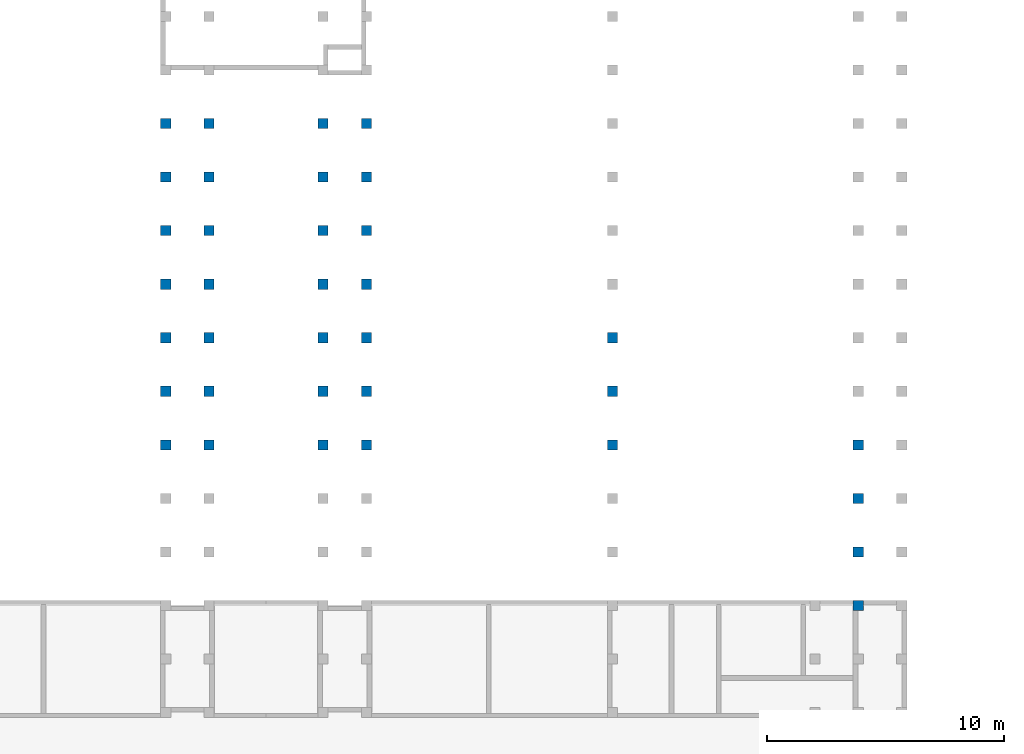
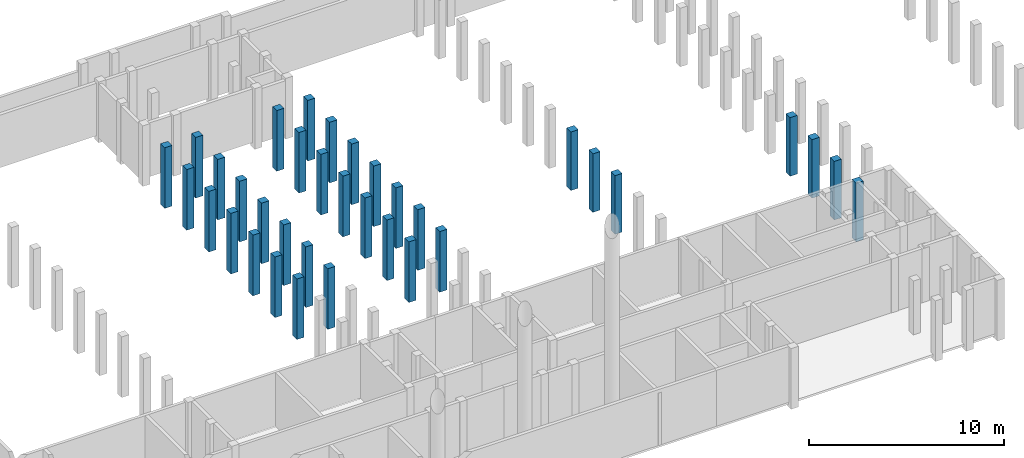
# One storey, part 4 of 9: 35 columns.
"""IFC2X3 building model written with IfcOpenShell, lengths in millimetres."""

from ifc_helpers import new_model, entity, si_unit, converted_unit, derived_unit, direction, frame, frame_2d, origin, origin_2d_with_axis, place, context, subcontext, project, spatial, rectangle, extrude, source, transform, mapped, material, type_object, type_shapes, element, save


model = new_model("IFC2X3")

# Units and contexts
model_context = context("Model", 3, precision=0.01, world=origin(), true_north=direction((6.12303176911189e-17, 1.0)))
body_context = subcontext(model_context, "Body", "Model", "MODEL_VIEW")
ifc_project = project(units=[si_unit("LENGTHUNIT", "METRE", prefix="MILLI"), si_unit("AREAUNIT", "SQUARE_METRE"), si_unit("VOLUMEUNIT", "CUBIC_METRE"), converted_unit("PLANEANGLEUNIT", "DEGREE", entity("IfcRatioMeasure", 0.0174532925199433), si_unit("PLANEANGLEUNIT", "RADIAN"), dimensions=[0, 0, 0, 0, 0, 0, 0]), si_unit("MASSUNIT", "GRAM", prefix="KILO"), derived_unit("MASSDENSITYUNIT", [(si_unit("MASSUNIT", "GRAM", prefix="KILO"), 1), (si_unit("LENGTHUNIT", "METRE"), -3)]), derived_unit("MOMENTOFINERTIAUNIT", [(si_unit("LENGTHUNIT", "METRE"), 4)]), si_unit("TIMEUNIT", "SECOND"), si_unit("FREQUENCYUNIT", "HERTZ"), si_unit("THERMODYNAMICTEMPERATUREUNIT", "DEGREE_CELSIUS"), derived_unit("THERMALTRANSMITTANCEUNIT", [(si_unit("MASSUNIT", "GRAM", prefix="KILO"), 1), (si_unit("THERMODYNAMICTEMPERATUREUNIT", "KELVIN"), -1), (si_unit("TIMEUNIT", "SECOND"), -3)]), derived_unit("VOLUMETRICFLOWRATEUNIT", [(si_unit("LENGTHUNIT", "METRE"), 3), (si_unit("TIMEUNIT", "SECOND"), -1)]), si_unit("ELECTRICCURRENTUNIT", "AMPERE"), si_unit("ELECTRICVOLTAGEUNIT", "VOLT"), si_unit("POWERUNIT", "WATT"), si_unit("FORCEUNIT", "NEWTON", prefix="KILO"), si_unit("ILLUMINANCEUNIT", "LUX"), si_unit("LUMINOUSFLUXUNIT", "LUMEN"), si_unit("LUMINOUSINTENSITYUNIT", "CANDELA"), derived_unit("USERDEFINED", [(si_unit("MASSUNIT", "GRAM", prefix="KILO"), -1), (si_unit("LENGTHUNIT", "METRE"), -2), (si_unit("TIMEUNIT", "SECOND"), 3), (si_unit("LUMINOUSFLUXUNIT", "LUMEN"), 1)]), derived_unit("LINEARVELOCITYUNIT", [(si_unit("LENGTHUNIT", "METRE"), 1), (si_unit("TIMEUNIT", "SECOND"), -1)]), si_unit("PRESSUREUNIT", "PASCAL"), derived_unit("USERDEFINED", [(si_unit("LENGTHUNIT", "METRE"), -2), (si_unit("MASSUNIT", "GRAM", prefix="KILO"), 1), (si_unit("TIMEUNIT", "SECOND"), -2)]), derived_unit("LINEARFORCEUNIT", [(si_unit("MASSUNIT", "GRAM", prefix="KILO"), 1), (si_unit("LENGTHUNIT", "METRE"), 1), (si_unit("TIMEUNIT", "SECOND"), -2), (si_unit("LENGTHUNIT", "METRE"), -1)]), derived_unit("PLANARFORCEUNIT", [(si_unit("MASSUNIT", "GRAM", prefix="KILO"), 1), (si_unit("LENGTHUNIT", "METRE"), 1), (si_unit("TIMEUNIT", "SECOND"), -2), (si_unit("LENGTHUNIT", "METRE"), -2)])], contexts=[model_context])

# Site, building, storey
site_placement = place(None, frame((10627.5135316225, 21939.0796949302, 0.0)))
site = spatial("IfcSite", under=ifc_project, at=site_placement, Name="Default", CompositionType="ELEMENT")
building_placement = place(site_placement, origin())
building = spatial("IfcBuilding", under=site, at=building_placement, CompositionType="ELEMENT")
storey_placement = place(building_placement, frame((0.0, 0.0, -3500.0)))
storey = spatial("IfcBuildingStorey", under=building, at=storey_placement, Name="R-1", CompositionType="ELEMENT", Elevation=-3500.0)

# Columns
ifc_material = material(Name="Concrete, Precast Smooth, Light Grey")
column_type_1 = type_object("IfcColumnType", Name="M_Precast-Square Column:430x430", PredefinedType="COLUMN", material=ifc_material)
shared_shape_1 = source(origin(), body_context, "Body", "SweptSolid", [
    extrude(rectangle(XDim=430.0, YDim=429.999999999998, at=origin_2d_with_axis()), frame((22342.4864683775, 9700.92030506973, -3800.0), z_axis=(0.0, 0.0, 1.0), x_axis=(0.0, -1.0, 0.0)), (0.0, 0.0, 1.0), 3800.0),
])
type_shapes(column_type_1, [shared_shape_1])
column_1_placement = place(storey_placement, frame((0.0, 0.0, 3500.0)))
element("IfcColumn", 1, at=column_1_placement, inside=storey, type_object=column_type_1, material=ifc_material, Name="M_Precast-Square Column:430x430", ObjectType="M_Precast-Square Column:430x430", context=body_context, shape_type="MappedRepresentation", body=[
    mapped(shared_shape_1, transform((0.0, 0.0, 0.0), scale=1.0)),
])
column_type_2 = type_object("IfcColumnType", Name="M_Precast-Square Column:430x430", PredefinedType="COLUMN", material=ifc_material)
shared_shape_2 = source(origin(), body_context, "Body", "SweptSolid", [
    extrude(rectangle(XDim=430.0, YDim=429.999999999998, at=frame_2d((-5.40012479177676e-13, 0.0), x_axis=(1.0, 0.0))), frame((24172.4864683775, 9700.92030506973, -3800.0), z_axis=(0.0, 0.0, 1.0), x_axis=(0.0, -1.0, 0.0)), (0.0, 0.0, 1.0), 3800.0),
])
type_shapes(column_type_2, [shared_shape_2])
column_2_placement = place(storey_placement, frame((0.0, 0.0, 3500.0)))
element("IfcColumn", 2, at=column_2_placement, inside=storey, type_object=column_type_2, material=ifc_material, Name="M_Precast-Square Column:430x430", ObjectType="M_Precast-Square Column:430x430", context=body_context, shape_type="MappedRepresentation", body=[
    mapped(shared_shape_2, transform((0.0, 0.0, 0.0), scale=1.0)),
])
column_type_3 = type_object("IfcColumnType", Name="M_Precast-Square Column:430x430", PredefinedType="COLUMN", material=ifc_material)
shared_shape_3 = source(origin(), body_context, "Body", "SweptSolid", [
    extrude(rectangle(XDim=430.0, YDim=429.999999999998, at=origin_2d_with_axis()), frame((22342.4864683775, 7440.92030506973, -3800.0), z_axis=(0.0, 0.0, 1.0), x_axis=(0.0, -1.0, 0.0)), (0.0, 0.0, 1.0), 3800.0),
])
type_shapes(column_type_3, [shared_shape_3])
column_3_placement = place(storey_placement, frame((0.0, 0.0, 3500.0)))
element("IfcColumn", 3, at=column_3_placement, inside=storey, type_object=column_type_3, material=ifc_material, Name="M_Precast-Square Column:430x430", ObjectType="M_Precast-Square Column:430x430", context=body_context, shape_type="MappedRepresentation", body=[
    mapped(shared_shape_3, transform((0.0, 0.0, 0.0), scale=1.0)),
])
column_type_4 = type_object("IfcColumnType", Name="M_Precast-Square Column:430x430", PredefinedType="COLUMN", material=ifc_material)
shared_shape_4 = source(origin(), body_context, "Body", "SweptSolid", [
    extrude(rectangle(XDim=430.0, YDim=429.999999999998, at=origin_2d_with_axis()), frame((24172.4864683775, 7440.92030506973, -3800.0), z_axis=(0.0, 0.0, 1.0), x_axis=(0.0, -1.0, 0.0)), (0.0, 0.0, 1.0), 3800.0),
])
type_shapes(column_type_4, [shared_shape_4])
column_4_placement = place(storey_placement, frame((0.0, 0.0, 3500.0)))
element("IfcColumn", 4, at=column_4_placement, inside=storey, type_object=column_type_4, material=ifc_material, Name="M_Precast-Square Column:430x430", ObjectType="M_Precast-Square Column:430x430", context=body_context, shape_type="MappedRepresentation", body=[
    mapped(shared_shape_4, transform((0.0, 0.0, 0.0), scale=1.0)),
])
column_type_5 = type_object("IfcColumnType", Name="M_Precast-Square Column:430x430", PredefinedType="COLUMN", material=ifc_material)
shared_shape_5 = source(origin(), body_context, "Body", "SweptSolid", [
    extrude(rectangle(XDim=430.0, YDim=429.999999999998, at=origin_2d_with_axis()), frame((22342.4864683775, 5180.92030506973, -3800.0), z_axis=(0.0, 0.0, 1.0), x_axis=(0.0, -1.0, 0.0)), (0.0, 0.0, 1.0), 3800.0),
])
type_shapes(column_type_5, [shared_shape_5])
column_5_placement = place(storey_placement, frame((0.0, 0.0, 3500.0)))
element("IfcColumn", 5, at=column_5_placement, inside=storey, type_object=column_type_5, material=ifc_material, Name="M_Precast-Square Column:430x430", ObjectType="M_Precast-Square Column:430x430", context=body_context, shape_type="MappedRepresentation", body=[
    mapped(shared_shape_5, transform((0.0, 0.0, 0.0), scale=1.0)),
])
column_type_6 = type_object("IfcColumnType", Name="M_Precast-Square Column:430x430", PredefinedType="COLUMN", material=ifc_material)
shared_shape_6 = source(origin(), body_context, "Body", "SweptSolid", [
    extrude(rectangle(XDim=430.0, YDim=429.999999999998, at=origin_2d_with_axis()), frame((24172.4864683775, 5180.92030506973, -3800.0), z_axis=(0.0, 0.0, 1.0), x_axis=(0.0, -1.0, 0.0)), (0.0, 0.0, 1.0), 3800.0),
])
type_shapes(column_type_6, [shared_shape_6])
column_6_placement = place(storey_placement, frame((0.0, 0.0, 3500.0)))
element("IfcColumn", 6, at=column_6_placement, inside=storey, type_object=column_type_6, material=ifc_material, Name="M_Precast-Square Column:430x430", ObjectType="M_Precast-Square Column:430x430", context=body_context, shape_type="MappedRepresentation", body=[
    mapped(shared_shape_6, transform((0.0, 0.0, 0.0), scale=1.0)),
])
column_type_7 = type_object("IfcColumnType", Name="M_Precast-Square Column:430x430", PredefinedType="COLUMN", material=ifc_material)
shared_shape_7 = source(origin(), body_context, "Body", "SweptSolid", [
    extrude(rectangle(XDim=430.0, YDim=429.999999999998, at=origin_2d_with_axis()), frame((22342.4864683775, 2920.92030506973, -3800.0), z_axis=(0.0, 0.0, 1.0), x_axis=(0.0, -1.0, 0.0)), (0.0, 0.0, 1.0), 3800.0),
])
type_shapes(column_type_7, [shared_shape_7])
column_7_placement = place(storey_placement, frame((0.0, 0.0, 3500.0)))
element("IfcColumn", 7, at=column_7_placement, inside=storey, type_object=column_type_7, material=ifc_material, Name="M_Precast-Square Column:430x430", ObjectType="M_Precast-Square Column:430x430", context=body_context, shape_type="MappedRepresentation", body=[
    mapped(shared_shape_7, transform((0.0, 0.0, 0.0), scale=1.0)),
])
column_type_8 = type_object("IfcColumnType", Name="M_Precast-Square Column:430x430", PredefinedType="COLUMN", material=ifc_material)
shared_shape_8 = source(origin(), body_context, "Body", "SweptSolid", [
    extrude(rectangle(XDim=430.0, YDim=429.999999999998, at=origin_2d_with_axis()), frame((24172.4864683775, 2920.92030506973, -3800.0), z_axis=(0.0, 0.0, 1.0), x_axis=(0.0, -1.0, 0.0)), (0.0, 0.0, 1.0), 3800.0),
])
type_shapes(column_type_8, [shared_shape_8])
column_8_placement = place(storey_placement, frame((0.0, 0.0, 3500.0)))
element("IfcColumn", 8, at=column_8_placement, inside=storey, type_object=column_type_8, material=ifc_material, Name="M_Precast-Square Column:430x430", ObjectType="M_Precast-Square Column:430x430", context=body_context, shape_type="MappedRepresentation", body=[
    mapped(shared_shape_8, transform((0.0, 0.0, 0.0), scale=1.0)),
])
column_type_9 = type_object("IfcColumnType", Name="M_Precast-Square Column:430x430", PredefinedType="COLUMN", material=ifc_material)
shared_shape_9 = source(origin(), body_context, "Body", "SweptSolid", [
    extrude(rectangle(XDim=430.0, YDim=429.999999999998, at=origin_2d_with_axis()), frame((22342.4864683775, 660.920305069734, -3800.0), z_axis=(0.0, 0.0, 1.0), x_axis=(0.0, -1.0, 0.0)), (0.0, 0.0, 1.0), 3800.0),
])
type_shapes(column_type_9, [shared_shape_9])
column_9_placement = place(storey_placement, frame((0.0, 0.0, 3500.0)))
element("IfcColumn", 9, at=column_9_placement, inside=storey, type_object=column_type_9, material=ifc_material, Name="M_Precast-Square Column:430x430", ObjectType="M_Precast-Square Column:430x430", context=body_context, shape_type="MappedRepresentation", body=[
    mapped(shared_shape_9, transform((0.0, 0.0, 0.0), scale=1.0)),
])
column_type_10 = type_object("IfcColumnType", Name="M_Precast-Square Column:430x430", PredefinedType="COLUMN", material=ifc_material)
shared_shape_10 = source(origin(), body_context, "Body", "SweptSolid", [
    extrude(rectangle(XDim=430.0, YDim=429.999999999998, at=frame_2d((-5.6843418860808e-14, 0.0), x_axis=(1.0, 0.0))), frame((24172.4864683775, 660.920305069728, -3800.0), z_axis=(0.0, 0.0, 1.0), x_axis=(0.0, -1.0, 0.0)), (0.0, 0.0, 1.0), 3800.0),
])
type_shapes(column_type_10, [shared_shape_10])
column_10_placement = place(storey_placement, frame((0.0, 0.0, 3500.0)))
element("IfcColumn", 10, at=column_10_placement, inside=storey, type_object=column_type_10, material=ifc_material, Name="M_Precast-Square Column:430x430", ObjectType="M_Precast-Square Column:430x430", context=body_context, shape_type="MappedRepresentation", body=[
    mapped(shared_shape_10, transform((0.0, 0.0, 0.0), scale=1.0)),
])
column_type_11 = type_object("IfcColumnType", Name="M_Precast-Square Column:430x430", PredefinedType="COLUMN", material=ifc_material)
shared_shape_11 = source(origin(), body_context, "Body", "SweptSolid", [
    extrude(rectangle(XDim=430.0, YDim=429.999999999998, at=origin_2d_with_axis()), frame((22342.4864683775, -1599.07969493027, -3800.0), z_axis=(0.0, 0.0, 1.0), x_axis=(0.0, -1.0, 0.0)), (0.0, 0.0, 1.0), 3800.0),
])
type_shapes(column_type_11, [shared_shape_11])
column_11_placement = place(storey_placement, frame((0.0, 0.0, 3500.0)))
element("IfcColumn", 11, at=column_11_placement, inside=storey, type_object=column_type_11, material=ifc_material, Name="M_Precast-Square Column:430x430", ObjectType="M_Precast-Square Column:430x430", context=body_context, shape_type="MappedRepresentation", body=[
    mapped(shared_shape_11, transform((0.0, 0.0, 0.0), scale=1.0)),
])
column_type_12 = type_object("IfcColumnType", Name="M_Precast-Square Column:430x430", PredefinedType="COLUMN", material=ifc_material)
shared_shape_12 = source(origin(), body_context, "Body", "SweptSolid", [
    extrude(rectangle(XDim=430.0, YDim=429.999999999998, at=frame_2d((1.4210854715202e-13, 0.0), x_axis=(1.0, 0.0))), frame((24172.4864683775, -1599.07969493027, -3800.0), z_axis=(0.0, 0.0, 1.0), x_axis=(0.0, -1.0, 0.0)), (0.0, 0.0, 1.0), 3800.0),
])
type_shapes(column_type_12, [shared_shape_12])
column_12_placement = place(storey_placement, frame((0.0, 0.0, 3500.0)))
element("IfcColumn", 12, at=column_12_placement, inside=storey, type_object=column_type_12, material=ifc_material, Name="M_Precast-Square Column:430x430", ObjectType="M_Precast-Square Column:430x430", context=body_context, shape_type="MappedRepresentation", body=[
    mapped(shared_shape_12, transform((0.0, 0.0, 0.0), scale=1.0)),
])
column_type_13 = type_object("IfcColumnType", Name="M_Precast-Square Column:430x430", PredefinedType="COLUMN", material=ifc_material)
shared_shape_13 = source(origin(), body_context, "Body", "SweptSolid", [
    extrude(rectangle(XDim=430.0, YDim=429.999999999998, at=origin_2d_with_axis()), frame((22342.4864683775, -3859.07969493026, -3800.0), z_axis=(0.0, 0.0, 1.0), x_axis=(0.0, -1.0, 0.0)), (0.0, 0.0, 1.0), 3800.0),
])
type_shapes(column_type_13, [shared_shape_13])
column_13_placement = place(storey_placement, frame((0.0, 0.0, 3500.0)))
element("IfcColumn", 13, at=column_13_placement, inside=storey, type_object=column_type_13, material=ifc_material, Name="M_Precast-Square Column:430x430", ObjectType="M_Precast-Square Column:430x430", context=body_context, shape_type="MappedRepresentation", body=[
    mapped(shared_shape_13, transform((0.0, 0.0, 0.0), scale=1.0)),
])
column_type_14 = type_object("IfcColumnType", Name="M_Precast-Square Column:430x430", PredefinedType="COLUMN", material=ifc_material)
shared_shape_14 = source(origin(), body_context, "Body", "SweptSolid", [
    extrude(rectangle(XDim=430.0, YDim=429.999999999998, at=origin_2d_with_axis()), frame((24172.4864683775, -3859.07969493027, -3800.0), z_axis=(0.0, 0.0, 1.0), x_axis=(0.0, -1.0, 0.0)), (0.0, 0.0, 1.0), 3800.0),
])
type_shapes(column_type_14, [shared_shape_14])
column_14_placement = place(storey_placement, frame((0.0, 0.0, 3500.0)))
element("IfcColumn", 14, at=column_14_placement, inside=storey, type_object=column_type_14, material=ifc_material, Name="M_Precast-Square Column:430x430", ObjectType="M_Precast-Square Column:430x430", context=body_context, shape_type="MappedRepresentation", body=[
    mapped(shared_shape_14, transform((0.0, 0.0, 0.0), scale=1.0)),
])
column_type_15 = type_object("IfcColumnType", Name="M_Precast-Square Column:430x430", PredefinedType="COLUMN", material=ifc_material)
shared_shape_15 = source(origin(), body_context, "Body", "SweptSolid", [
    extrude(rectangle(XDim=430.0, YDim=429.999999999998, at=origin_2d_with_axis()), frame((30812.4864683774, 9700.92030506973, -3800.0), z_axis=(0.0, 0.0, 1.0), x_axis=(0.0, -1.0, 0.0)), (0.0, 0.0, 1.0), 3800.0),
])
type_shapes(column_type_15, [shared_shape_15])
column_15_placement = place(storey_placement, frame((0.0, 0.0, 3500.0)))
element("IfcColumn", 15, at=column_15_placement, inside=storey, type_object=column_type_15, material=ifc_material, Name="M_Precast-Square Column:430x430", ObjectType="M_Precast-Square Column:430x430", context=body_context, shape_type="MappedRepresentation", body=[
    mapped(shared_shape_15, transform((0.0, 0.0, 0.0), scale=1.0)),
])
column_type_16 = type_object("IfcColumnType", Name="M_Precast-Square Column:430x430", PredefinedType="COLUMN", material=ifc_material)
shared_shape_16 = source(origin(), body_context, "Body", "SweptSolid", [
    extrude(rectangle(XDim=430.000000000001, YDim=429.999999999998, at=frame_2d((5.40012479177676e-13, 0.0), x_axis=(1.0, 0.0))), frame((28982.4864683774, 9700.92030506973, -3800.0), z_axis=(0.0, 0.0, 1.0), x_axis=(0.0, -1.0, 0.0)), (0.0, 0.0, 1.0), 3800.0),
])
type_shapes(column_type_16, [shared_shape_16])
column_16_placement = place(storey_placement, frame((0.0, 0.0, 3500.0)))
element("IfcColumn", 16, at=column_16_placement, inside=storey, type_object=column_type_16, material=ifc_material, Name="M_Precast-Square Column:430x430", ObjectType="M_Precast-Square Column:430x430", context=body_context, shape_type="MappedRepresentation", body=[
    mapped(shared_shape_16, transform((0.0, 0.0, 0.0), scale=1.0)),
])
column_type_17 = type_object("IfcColumnType", Name="M_Precast-Square Column:430x430", PredefinedType="COLUMN", material=ifc_material)
shared_shape_17 = source(origin(), body_context, "Body", "SweptSolid", [
    extrude(rectangle(XDim=430.0, YDim=429.999999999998, at=frame_2d((0.0, -4.33431068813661e-12), x_axis=(1.0, 0.0))), frame((30812.4864683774, 7440.92030506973, -3800.0), z_axis=(0.0, 0.0, 1.0), x_axis=(0.0, -1.0, 0.0)), (0.0, 0.0, 1.0), 3800.0),
])
type_shapes(column_type_17, [shared_shape_17])
column_17_placement = place(storey_placement, frame((0.0, 0.0, 3500.0)))
element("IfcColumn", 17, at=column_17_placement, inside=storey, type_object=column_type_17, material=ifc_material, Name="M_Precast-Square Column:430x430", ObjectType="M_Precast-Square Column:430x430", context=body_context, shape_type="MappedRepresentation", body=[
    mapped(shared_shape_17, transform((0.0, 0.0, 0.0), scale=1.0)),
])
column_type_18 = type_object("IfcColumnType", Name="M_Precast-Square Column:430x430", PredefinedType="COLUMN", material=ifc_material)
shared_shape_18 = source(origin(), body_context, "Body", "SweptSolid", [
    extrude(rectangle(XDim=430.0, YDim=429.999999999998, at=frame_2d((0.0, -4.33431068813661e-12), x_axis=(1.0, 0.0))), frame((28982.4864683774, 7440.92030506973, -3800.0), z_axis=(0.0, 0.0, 1.0), x_axis=(0.0, -1.0, 0.0)), (0.0, 0.0, 1.0), 3800.0),
])
type_shapes(column_type_18, [shared_shape_18])
column_18_placement = place(storey_placement, frame((0.0, 0.0, 3500.0)))
element("IfcColumn", 18, at=column_18_placement, inside=storey, type_object=column_type_18, material=ifc_material, Name="M_Precast-Square Column:430x430", ObjectType="M_Precast-Square Column:430x430", context=body_context, shape_type="MappedRepresentation", body=[
    mapped(shared_shape_18, transform((0.0, 0.0, 0.0), scale=1.0)),
])
column_type_19 = type_object("IfcColumnType", Name="M_Precast-Square Column:430x430", PredefinedType="COLUMN", material=ifc_material)
shared_shape_19 = source(origin(), body_context, "Body", "SweptSolid", [
    extrude(rectangle(XDim=430.0, YDim=429.999999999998, at=origin_2d_with_axis()), frame((30812.4864683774, 5180.92030506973, -3800.0), z_axis=(0.0, 0.0, 1.0), x_axis=(0.0, -1.0, 0.0)), (0.0, 0.0, 1.0), 3800.0),
])
type_shapes(column_type_19, [shared_shape_19])
column_19_placement = place(storey_placement, frame((0.0, 0.0, 3500.0)))
element("IfcColumn", 19, at=column_19_placement, inside=storey, type_object=column_type_19, material=ifc_material, Name="M_Precast-Square Column:430x430", ObjectType="M_Precast-Square Column:430x430", context=body_context, shape_type="MappedRepresentation", body=[
    mapped(shared_shape_19, transform((0.0, 0.0, 0.0), scale=1.0)),
])
column_type_20 = type_object("IfcColumnType", Name="M_Precast-Square Column:430x430", PredefinedType="COLUMN", material=ifc_material)
shared_shape_20 = source(origin(), body_context, "Body", "SweptSolid", [
    extrude(rectangle(XDim=430.0, YDim=429.999999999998, at=origin_2d_with_axis()), frame((28982.4864683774, 5180.92030506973, -3800.0), z_axis=(0.0, 0.0, 1.0), x_axis=(0.0, -1.0, 0.0)), (0.0, 0.0, 1.0), 3800.0),
])
type_shapes(column_type_20, [shared_shape_20])
column_20_placement = place(storey_placement, frame((0.0, 0.0, 3500.0)))
element("IfcColumn", 20, at=column_20_placement, inside=storey, type_object=column_type_20, material=ifc_material, Name="M_Precast-Square Column:430x430", ObjectType="M_Precast-Square Column:430x430", context=body_context, shape_type="MappedRepresentation", body=[
    mapped(shared_shape_20, transform((0.0, 0.0, 0.0), scale=1.0)),
])
column_type_21 = type_object("IfcColumnType", Name="M_Precast-Square Column:430x430", PredefinedType="COLUMN", material=ifc_material)
shared_shape_21 = source(origin(), body_context, "Body", "SweptSolid", [
    extrude(rectangle(XDim=430.0, YDim=429.999999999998, at=origin_2d_with_axis()), frame((30812.4864683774, 2920.92030506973, -3800.0), z_axis=(0.0, 0.0, 1.0), x_axis=(0.0, -1.0, 0.0)), (0.0, 0.0, 1.0), 3800.0),
])
type_shapes(column_type_21, [shared_shape_21])
column_21_placement = place(storey_placement, frame((0.0, 0.0, 3500.0)))
element("IfcColumn", 21, at=column_21_placement, inside=storey, type_object=column_type_21, material=ifc_material, Name="M_Precast-Square Column:430x430", ObjectType="M_Precast-Square Column:430x430", context=body_context, shape_type="MappedRepresentation", body=[
    mapped(shared_shape_21, transform((0.0, 0.0, 0.0), scale=1.0)),
])
column_type_22 = type_object("IfcColumnType", Name="M_Precast-Square Column:430x430", PredefinedType="COLUMN", material=ifc_material)
shared_shape_22 = source(origin(), body_context, "Body", "SweptSolid", [
    extrude(rectangle(XDim=430.0, YDim=429.999999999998, at=origin_2d_with_axis()), frame((28982.4864683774, 2920.92030506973, -3800.0), z_axis=(0.0, 0.0, 1.0), x_axis=(0.0, -1.0, 0.0)), (0.0, 0.0, 1.0), 3800.0),
])
type_shapes(column_type_22, [shared_shape_22])
column_22_placement = place(storey_placement, frame((0.0, 0.0, 3500.0)))
element("IfcColumn", 22, at=column_22_placement, inside=storey, type_object=column_type_22, material=ifc_material, Name="M_Precast-Square Column:430x430", ObjectType="M_Precast-Square Column:430x430", context=body_context, shape_type="MappedRepresentation", body=[
    mapped(shared_shape_22, transform((0.0, 0.0, 0.0), scale=1.0)),
])
column_type_23 = type_object("IfcColumnType", Name="M_Precast-Square Column:430x430", PredefinedType="COLUMN", material=ifc_material)
shared_shape_23 = source(origin(), body_context, "Body", "SweptSolid", [
    extrude(rectangle(XDim=430.0, YDim=430.000000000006, at=frame_2d((7.105427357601e-14, 0.0), x_axis=(1.0, 0.0))), frame((41192.4864683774, 660.920305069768, -3800.0), z_axis=(0.0, 0.0, 1.0), x_axis=(0.0, -1.0, 0.0)), (0.0, 0.0, 1.0), 3670.0),
])
type_shapes(column_type_23, [shared_shape_23])
column_23_placement = place(storey_placement, frame((0.0, 0.0, 3500.0)))
element("IfcColumn", 23, at=column_23_placement, inside=storey, type_object=column_type_23, material=ifc_material, Name="M_Precast-Square Column:430x430", ObjectType="M_Precast-Square Column:430x430", context=body_context, shape_type="MappedRepresentation", body=[
    mapped(shared_shape_23, transform((0.0, 0.0, 0.0), scale=1.0)),
])
column_type_24 = type_object("IfcColumnType", Name="M_Precast-Square Column:430x430", PredefinedType="COLUMN", material=ifc_material)
shared_shape_24 = source(origin(), body_context, "Body", "SweptSolid", [
    extrude(rectangle(XDim=430.0, YDim=429.999999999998, at=origin_2d_with_axis()), frame((30812.4864683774, 660.920305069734, -3800.0), z_axis=(0.0, 0.0, 1.0), x_axis=(0.0, -1.0, 0.0)), (0.0, 0.0, 1.0), 3800.0),
])
type_shapes(column_type_24, [shared_shape_24])
column_24_placement = place(storey_placement, frame((0.0, 0.0, 3500.0)))
element("IfcColumn", 24, at=column_24_placement, inside=storey, type_object=column_type_24, material=ifc_material, Name="M_Precast-Square Column:430x430", ObjectType="M_Precast-Square Column:430x430", context=body_context, shape_type="MappedRepresentation", body=[
    mapped(shared_shape_24, transform((0.0, 0.0, 0.0), scale=1.0)),
])
column_type_25 = type_object("IfcColumnType", Name="M_Precast-Square Column:430x430", PredefinedType="COLUMN", material=ifc_material)
shared_shape_25 = source(origin(), body_context, "Body", "SweptSolid", [
    extrude(rectangle(XDim=430.0, YDim=429.999999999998, at=frame_2d((7.105427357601e-14, 0.0), x_axis=(1.0, 0.0))), frame((28982.4864683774, 660.920305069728, -3800.0), z_axis=(0.0, 0.0, 1.0), x_axis=(0.0, -1.0, 0.0)), (0.0, 0.0, 1.0), 3800.0),
])
type_shapes(column_type_25, [shared_shape_25])
column_25_placement = place(storey_placement, frame((0.0, 0.0, 3500.0)))
element("IfcColumn", 25, at=column_25_placement, inside=storey, type_object=column_type_25, material=ifc_material, Name="M_Precast-Square Column:430x430", ObjectType="M_Precast-Square Column:430x430", context=body_context, shape_type="MappedRepresentation", body=[
    mapped(shared_shape_25, transform((0.0, 0.0, 0.0), scale=1.0)),
])
column_type_26 = type_object("IfcColumnType", Name="M_Precast-Square Column:430x430", PredefinedType="COLUMN", material=ifc_material)
shared_shape_26 = source(origin(), body_context, "Body", "SweptSolid", [
    extrude(rectangle(XDim=430.0, YDim=430.000000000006, at=frame_2d((2.70006239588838e-13, 0.0), x_axis=(1.0, 0.0))), frame((41192.4864683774, -1599.07969493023, -3800.0), z_axis=(0.0, 0.0, 1.0), x_axis=(0.0, -1.0, 0.0)), (0.0, 0.0, 1.0), 3670.0),
])
type_shapes(column_type_26, [shared_shape_26])
column_26_placement = place(storey_placement, frame((0.0, 0.0, 3500.0)))
element("IfcColumn", 26, at=column_26_placement, inside=storey, type_object=column_type_26, material=ifc_material, Name="M_Precast-Square Column:430x430", ObjectType="M_Precast-Square Column:430x430", context=body_context, shape_type="MappedRepresentation", body=[
    mapped(shared_shape_26, transform((0.0, 0.0, 0.0), scale=1.0)),
])
column_type_27 = type_object("IfcColumnType", Name="M_Precast-Square Column:430x430", PredefinedType="COLUMN", material=ifc_material)
shared_shape_27 = source(origin(), body_context, "Body", "SweptSolid", [
    extrude(rectangle(XDim=430.0, YDim=429.999999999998, at=frame_2d((-2.70006239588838e-13, 0.0), x_axis=(1.0, 0.0))), frame((30812.4864683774, -1599.07969493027, -3800.0), z_axis=(0.0, 0.0, 1.0), x_axis=(0.0, -1.0, 0.0)), (0.0, 0.0, 1.0), 3800.0),
])
type_shapes(column_type_27, [shared_shape_27])
column_27_placement = place(storey_placement, frame((0.0, 0.0, 3500.0)))
element("IfcColumn", 27, at=column_27_placement, inside=storey, type_object=column_type_27, material=ifc_material, Name="M_Precast-Square Column:430x430", ObjectType="M_Precast-Square Column:430x430", context=body_context, shape_type="MappedRepresentation", body=[
    mapped(shared_shape_27, transform((0.0, 0.0, 0.0), scale=1.0)),
])
column_type_28 = type_object("IfcColumnType", Name="M_Precast-Square Column:430x430", PredefinedType="COLUMN", material=ifc_material)
shared_shape_28 = source(origin(), body_context, "Body", "SweptSolid", [
    extrude(rectangle(XDim=430.0, YDim=429.999999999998, at=frame_2d((-1.4210854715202e-13, 0.0), x_axis=(1.0, 0.0))), frame((28982.4864683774, -1599.07969493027, -3800.0), z_axis=(0.0, 0.0, 1.0), x_axis=(0.0, -1.0, 0.0)), (0.0, 0.0, 1.0), 3800.0),
])
type_shapes(column_type_28, [shared_shape_28])
column_28_placement = place(storey_placement, frame((0.0, 0.0, 3500.0)))
element("IfcColumn", 28, at=column_28_placement, inside=storey, type_object=column_type_28, material=ifc_material, Name="M_Precast-Square Column:430x430", ObjectType="M_Precast-Square Column:430x430", context=body_context, shape_type="MappedRepresentation", body=[
    mapped(shared_shape_28, transform((0.0, 0.0, 0.0), scale=1.0)),
])
column_type_29 = type_object("IfcColumnType", Name="M_Precast-Square Column:430x430", PredefinedType="COLUMN", material=ifc_material)
shared_shape_29 = source(origin(), body_context, "Body", "SweptSolid", [
    extrude(rectangle(XDim=430.0, YDim=430.000000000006, at=origin_2d_with_axis()), frame((51572.4864683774, -3859.0796949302, -3800.0), z_axis=(0.0, 0.0, 1.0), x_axis=(0.0, -1.0, 0.0)), (0.0, 0.0, 1.0), 3670.0),
])
type_shapes(column_type_29, [shared_shape_29])
column_29_placement = place(storey_placement, frame((0.0, 0.0, 3500.0)))
element("IfcColumn", 29, at=column_29_placement, inside=storey, type_object=column_type_29, material=ifc_material, Name="M_Precast-Square Column:430x430", ObjectType="M_Precast-Square Column:430x430", context=body_context, shape_type="MappedRepresentation", body=[
    mapped(shared_shape_29, transform((0.0, 0.0, 0.0), scale=1.0)),
])
column_type_30 = type_object("IfcColumnType", Name="M_Precast-Square Column:430x430", PredefinedType="COLUMN", material=ifc_material)
shared_shape_30 = source(origin(), body_context, "Body", "SweptSolid", [
    extrude(rectangle(XDim=430.0, YDim=430.000000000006, at=origin_2d_with_axis()), frame((41192.4864683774, -3859.07969493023, -3800.0), z_axis=(0.0, 0.0, 1.0), x_axis=(0.0, -1.0, 0.0)), (0.0, 0.0, 1.0), 3670.0),
])
type_shapes(column_type_30, [shared_shape_30])
column_30_placement = place(storey_placement, frame((0.0, 0.0, 3500.0)))
element("IfcColumn", 30, at=column_30_placement, inside=storey, type_object=column_type_30, material=ifc_material, Name="M_Precast-Square Column:430x430", ObjectType="M_Precast-Square Column:430x430", context=body_context, shape_type="MappedRepresentation", body=[
    mapped(shared_shape_30, transform((0.0, 0.0, 0.0), scale=1.0)),
])
column_type_31 = type_object("IfcColumnType", Name="M_Precast-Square Column:430x430", PredefinedType="COLUMN", material=ifc_material)
shared_shape_31 = source(origin(), body_context, "Body", "SweptSolid", [
    extrude(rectangle(XDim=430.0, YDim=429.999999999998, at=frame_2d((0.0, 4.33431068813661e-12), x_axis=(1.0, 0.0))), frame((30812.4864683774, -3859.07969493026, -3800.0), z_axis=(0.0, 0.0, 1.0), x_axis=(0.0, -1.0, 0.0)), (0.0, 0.0, 1.0), 3800.0),
])
type_shapes(column_type_31, [shared_shape_31])
column_31_placement = place(storey_placement, frame((0.0, 0.0, 3500.0)))
element("IfcColumn", 31, at=column_31_placement, inside=storey, type_object=column_type_31, material=ifc_material, Name="M_Precast-Square Column:430x430", ObjectType="M_Precast-Square Column:430x430", context=body_context, shape_type="MappedRepresentation", body=[
    mapped(shared_shape_31, transform((0.0, 0.0, 0.0), scale=1.0)),
])
column_type_32 = type_object("IfcColumnType", Name="M_Precast-Square Column:430x430", PredefinedType="COLUMN", material=ifc_material)
shared_shape_32 = source(origin(), body_context, "Body", "SweptSolid", [
    extrude(rectangle(XDim=430.0, YDim=429.999999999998, at=frame_2d((-5.40012479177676e-13, 4.33431068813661e-12), x_axis=(1.0, 0.0))), frame((28982.4864683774, -3859.07969493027, -3800.0), z_axis=(0.0, 0.0, 1.0), x_axis=(0.0, -1.0, 0.0)), (0.0, 0.0, 1.0), 3800.0),
])
type_shapes(column_type_32, [shared_shape_32])
column_32_placement = place(storey_placement, frame((0.0, 0.0, 3500.0)))
element("IfcColumn", 32, at=column_32_placement, inside=storey, type_object=column_type_32, material=ifc_material, Name="M_Precast-Square Column:430x430", ObjectType="M_Precast-Square Column:430x430", context=body_context, shape_type="MappedRepresentation", body=[
    mapped(shared_shape_32, transform((0.0, 0.0, 0.0), scale=1.0)),
])
column_type_33 = type_object("IfcColumnType", Name="M_Precast-Square Column:430x430", PredefinedType="COLUMN", material=ifc_material)
shared_shape_33 = source(origin(), body_context, "Body", "SweptSolid", [
    extrude(rectangle(XDim=430.0, YDim=430.000000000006, at=origin_2d_with_axis()), frame((51572.4864683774, -6119.0796949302, -3800.0), z_axis=(0.0, 0.0, 1.0), x_axis=(0.0, -1.0, 0.0)), (0.0, 0.0, 1.0), 3670.0),
])
type_shapes(column_type_33, [shared_shape_33])
column_33_placement = place(storey_placement, frame((0.0, 0.0, 3500.0)))
element("IfcColumn", 33, at=column_33_placement, inside=storey, type_object=column_type_33, material=ifc_material, Name="M_Precast-Square Column:430x430", ObjectType="M_Precast-Square Column:430x430", context=body_context, shape_type="MappedRepresentation", body=[
    mapped(shared_shape_33, transform((0.0, 0.0, 0.0), scale=1.0)),
])
column_type_34 = type_object("IfcColumnType", Name="M_Precast-Square Column:430x430", PredefinedType="COLUMN", material=ifc_material)
shared_shape_34 = source(origin(), body_context, "Body", "SweptSolid", [
    extrude(rectangle(XDim=430.0, YDim=430.000000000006, at=frame_2d((0.0, -8.66862137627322e-12), x_axis=(1.0, 0.0))), frame((51572.4864683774, -8379.0796949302, -3800.0), z_axis=(0.0, 0.0, 1.0), x_axis=(0.0, -1.0, 0.0)), (0.0, 0.0, 1.0), 3670.0),
])
type_shapes(column_type_34, [shared_shape_34])
column_34_placement = place(storey_placement, frame((0.0, 0.0, 3500.0)))
element("IfcColumn", 34, at=column_34_placement, inside=storey, type_object=column_type_34, material=ifc_material, Name="M_Precast-Square Column:430x430", ObjectType="M_Precast-Square Column:430x430", context=body_context, shape_type="MappedRepresentation", body=[
    mapped(shared_shape_34, transform((0.0, 0.0, 0.0), scale=1.0)),
])
column_type_35 = type_object("IfcColumnType", Name="M_Precast-Square Column:430x430", PredefinedType="COLUMN", material=ifc_material)
shared_shape_35 = source(origin(), body_context, "Body", "SweptSolid", [
    extrude(rectangle(XDim=430.0, YDim=430.000000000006, at=frame_2d((-1.08002495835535e-12, -8.66862137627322e-12), x_axis=(1.0, 0.0))), frame((51572.4864683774, -10639.0796949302, -3800.0), z_axis=(0.0, 0.0, 1.0), x_axis=(0.0, -1.0, 0.0)), (0.0, 0.0, 1.0), 3670.0),
])
type_shapes(column_type_35, [shared_shape_35])
column_35_placement = place(storey_placement, frame((0.0, 0.0, 3500.0)))
element("IfcColumn", 35, at=column_35_placement, inside=storey, type_object=column_type_35, material=ifc_material, Name="M_Precast-Square Column:430x430", ObjectType="M_Precast-Square Column:430x430", context=body_context, shape_type="MappedRepresentation", body=[
    mapped(shared_shape_35, transform((0.0, 0.0, 0.0), scale=1.0)),
])

save(model, "model.ifc")
